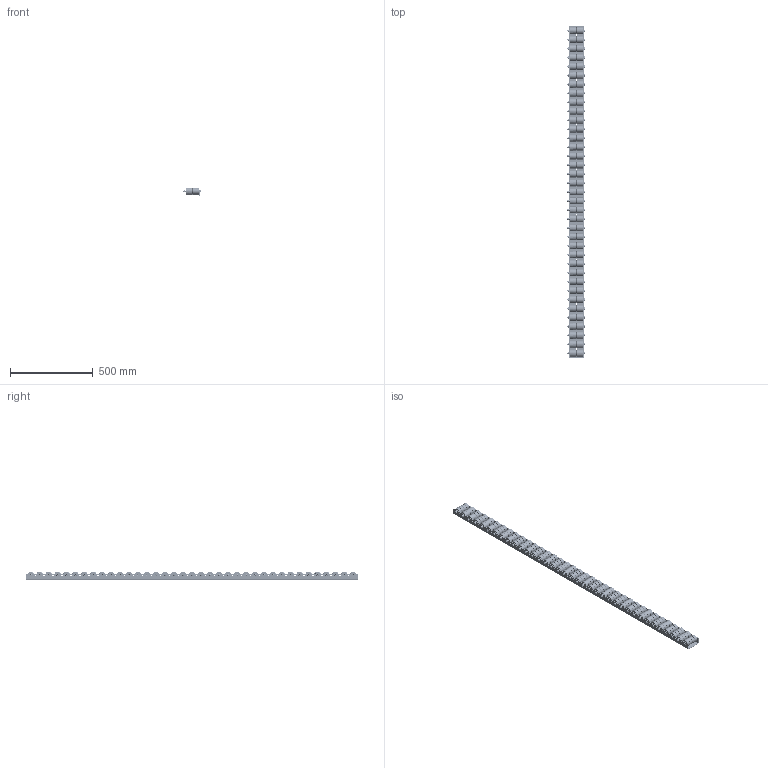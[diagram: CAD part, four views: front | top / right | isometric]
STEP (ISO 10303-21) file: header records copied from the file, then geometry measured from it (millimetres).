
FILE_DESCRIPTION(/* description */ ('Unknown'),/* implementation_level */ '2;1');
FILE_NAME(/* name */ 'Listwa T681',/* time_stamp */ '2022-11-30T10:28:59+01:00',/* author */ ('Unknown'),/* organization */ ('Unknown'),/* preprocessor_version */ 'ST-DEVELOPER v16.7',/* originating_system */ 'Solid Edge',/* authorisation */ 'Unknown');
FILE_SCHEMA (('AUTOMOTIVE_DESIGN {1 0 10303 214 3 1 1}'));
Length unit declared in the file: millimetre
Products named in the file (5): Listwa T681; 1540-00-02; Nut_DIN_980_M8_v10.50; Bolt_DIN_931_M8x100_14.00; Rolka fi 42
Assembly tree (223 placements, depth 2):
  Listwa T681
    1540-00-02
    Nut_DIN_980_M8_v10.50  x37
    Bolt_DIN_931_M8x100_14.00  x37
    Rolka fi 42  x148
Bounding box: 105.3 x 2000 x 51 mm (x, y, z)
Volume: 3717888.4 mm3; surface area: 1937652 mm2
Topology: 223 solids, 223 shells, 9677 faces, 25629 edges, 16916 vertices
Faces by surface type: plane 7336, cylinder 1342, cone 555, torus 444
Full cylindrical faces by diameter (mm): 6.466 x37, 6.647 x37, 6.697 x37, 8 x74, 8.2 x154, 8.3 x148, 8.4 x37, 11.63 x37, 12.5 x37, 14 x296, 30 x148, 32 x148, 42 x148
Entity records: 11738 total; most frequent: DIRECTION 1912, CARTESIAN_POINT 1655, ORIENTED_EDGE 1124, AXIS2_PLACEMENT_3D 893, EDGE_LOOP 766, FACE_BOUND 766, EDGE_CURVE 562, VERTEX_POINT 486
